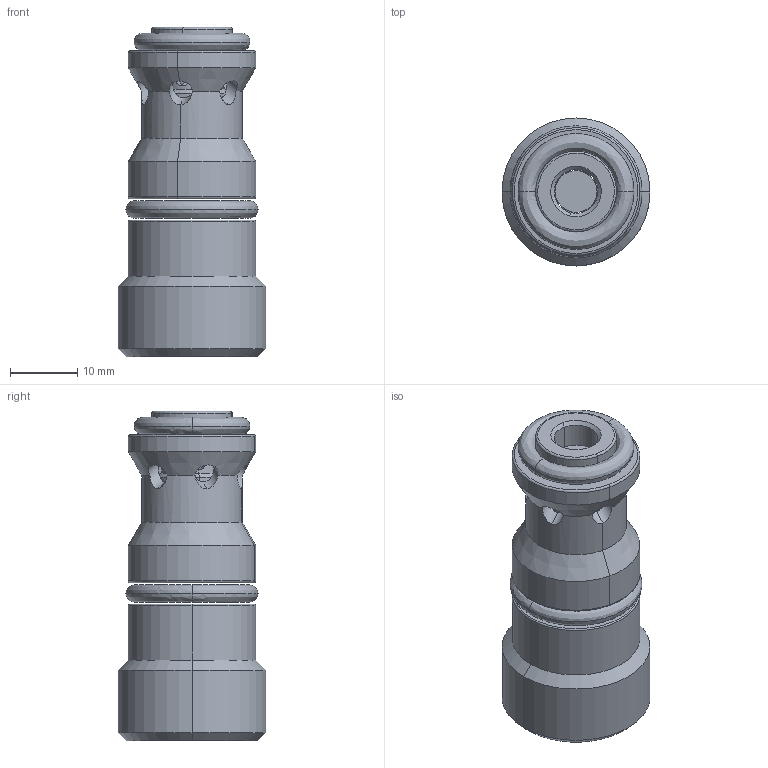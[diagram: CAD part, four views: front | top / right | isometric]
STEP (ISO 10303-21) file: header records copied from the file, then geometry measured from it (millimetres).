
FILE_DESCRIPTION (( 'STEP AP214' ), '1' );
FILE_NAME ('FT2267_6-14.STEP', '2015-03-30T19:37:51', ( '' ), ( '' ), 'SwSTEP 2.0', 'SolidWorks 2014', '' );
FILE_SCHEMA (( 'AUTOMOTIVE_DESIGN' ));
Length unit declared in the file: millimetre
Products named in the file (1): FT2267_6-14
Bounding box: 22 x 22 x 49 mm (x, y, z)
Surface area: 5149.4 mm2 (no closed solid volume)
Topology: 0 solids, 8 shells, 203 faces, 597 edges, 387 vertices
Faces by surface type: plane 90, cylinder 50, bspline 37, cone 18, torus 8
Entity records: 11686 total; most frequent: CARTESIAN_POINT 4415, ORIENTED_EDGE 1092, DIRECTION 883, EDGE_CURVE 595, VERTEX_POINT 387, LINE 329, VECTOR 329, AXIS2_PLACEMENT_3D 277
